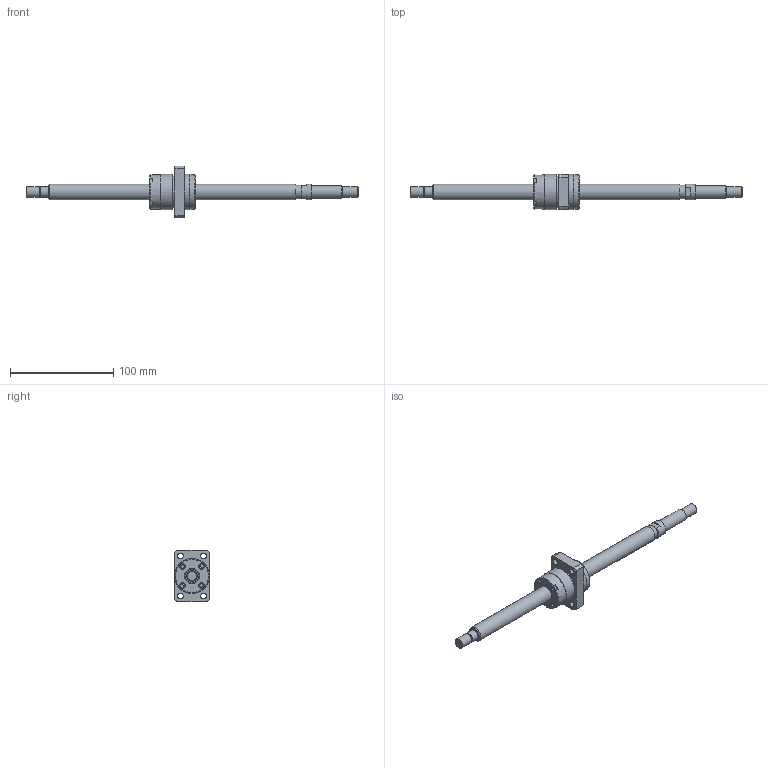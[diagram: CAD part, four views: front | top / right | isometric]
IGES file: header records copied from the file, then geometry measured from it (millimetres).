
Start section: Data from Parasolid IGES Translator 26.0.171, Copyright(c) 2006 Siemens PLM Software. All Rights Reserved.
Global section: file name: BNK1510-5.6G0+321LC5Y(141.50).igs; native system: By Siemens PLM Incorporated; preprocessor: XPlus GENERIC/IGES 26.0.171; author: Noname; organization: Noname; date: 20240628.062526; units: millimetre
Bounding box: 321 x 34 x 50 mm (x, y, z)
Surface area: 26415.4 mm2 (no closed solid volume)
Topology: 0 solids, 0 shells, 140 faces, 657 edges, 600 vertices
Faces by surface type: extrusion 76, revolution 64
